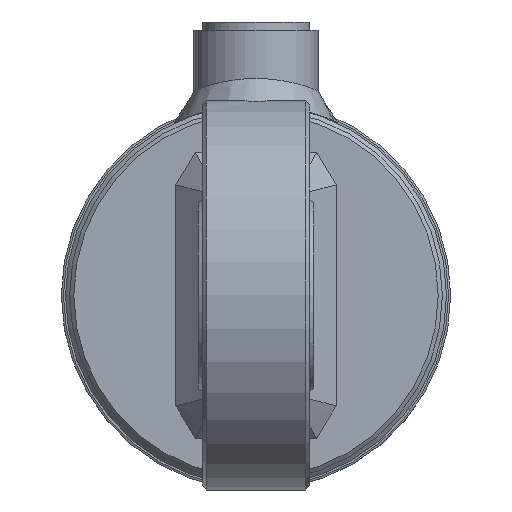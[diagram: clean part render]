
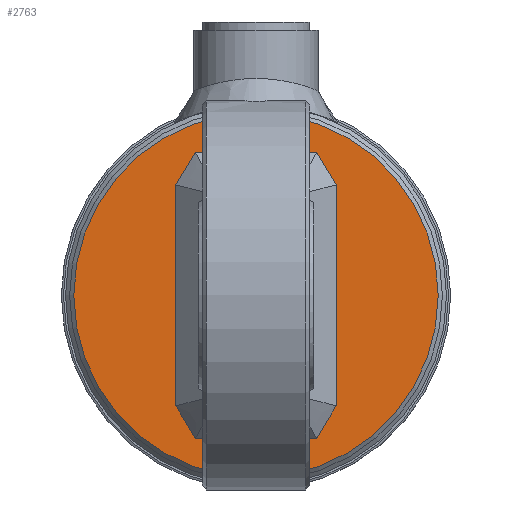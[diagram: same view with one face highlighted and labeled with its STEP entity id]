
A CAD part, left-side view. The second image highlights one B-rep face of the part: STEP entity #2763.
In plain terms, the highlighted planar face has unit normal (-1, 0, 0).
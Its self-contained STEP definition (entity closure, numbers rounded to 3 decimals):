
#2763 = ADVANCED_FACE( '', ( #10436 ), #10437, .T. );
#10436 = FACE_OUTER_BOUND( '', #12376, .T. );
#10437 = PLANE( '', #12377 );
#12376 = EDGE_LOOP( '', ( #13255 ) );
#12377 = AXIS2_PLACEMENT_3D( '', #13256, #13257, #13258 );
#13255 = ORIENTED_EDGE( '', *, *, #14375, .T. );
#13256 = CARTESIAN_POINT( '', ( -12., 0., 0. ) );
#13257 = DIRECTION( '', ( -1., 0., 0. ) );
#13258 = DIRECTION( '', ( 0., -1., 0. ) );
#14375 = EDGE_CURVE( '', #18095, #18095, #18096, .T. );
#18095 = VERTEX_POINT( '', #18813 );
#18096 = CIRCLE( '', #18814, 44. );
#18813 = CARTESIAN_POINT( '', ( -12., -44., 0. ) );
#18814 = AXIS2_PLACEMENT_3D( '', #18889, #18890, #18891 );
#18889 = CARTESIAN_POINT( '', ( -12., 0., 0. ) );
#18890 = DIRECTION( '', ( -1., 0., 0. ) );
#18891 = DIRECTION( '', ( 0., -1., 0. ) );
